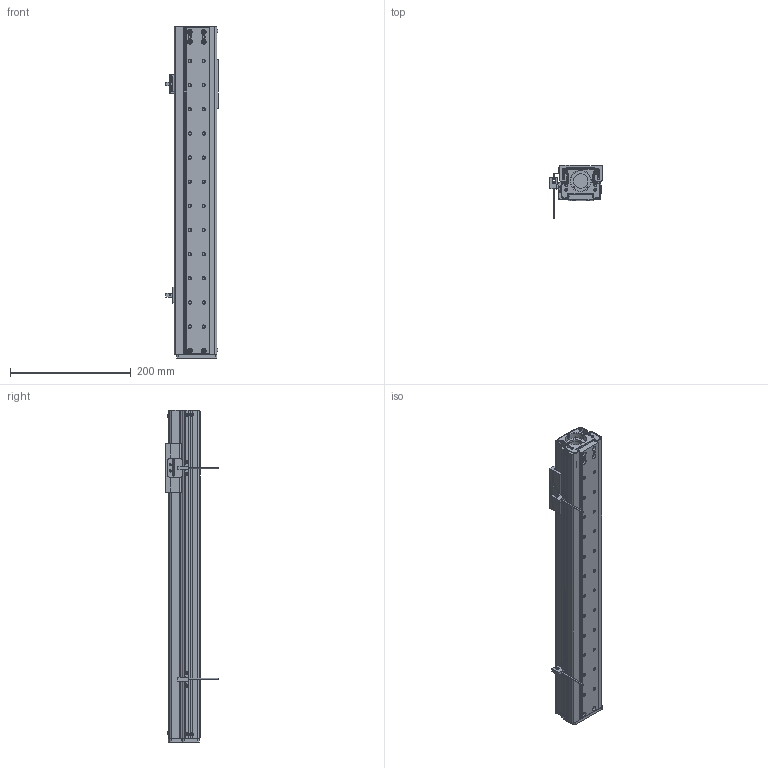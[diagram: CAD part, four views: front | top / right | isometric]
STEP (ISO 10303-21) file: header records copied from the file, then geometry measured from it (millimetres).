
FILE_DESCRIPTION (( 'STEP AP203' ), '1' );
FILE_NAME ('CTHM6-S350.STEP', '2019-12-18T01:46:11', ( '微软用户' ), ( '微软中国' ), 'SwSTEP 2.0', 'SolidWorks 2017', '' );
FILE_SCHEMA (( 'CONFIG_CONTROL_DESIGN' ));
Length unit declared in the file: millimetre
Products named in the file (17): M3-L6半圆头内六角螺丝; LMW15奻窅; 羲壽え; M3-L6囀鞠褒蹟佪; 蟀諉釱(裔啣党蜊); 支持侧轴承座(带磁条); EE-SX672-BR; LMW15AA; 遣喳蝶15x12x8; 滅袉蝶; MG60裔啣; CTHM6-S350; 耜結啣(湍羞); DG60傷裔(祥結傷裔); M4-L10囀鞠褒蹟佪; 侧挡板2(带磁条修改厚度); 固定侧轴承座(自制轴承座)
Assembly tree (29 placements, depth 2):
  CTHM6-S350
    LMW15奻窅
    蟀諉釱(裔啣党蜊)
    LMW15AA
    固定侧轴承座(自制轴承座)
    羲壽え
    支持侧轴承座(带磁条)
    遣喳蝶15x12x8  x2
    MG60裔啣
    耜結啣(湍羞)
    DG60傷裔(祥結傷裔)
    M4-L10囀鞠褒蹟佪  x2
    侧挡板2(带磁条修改厚度)
    M3-L6半圆头内六角螺丝  x8
    M3-L6囀鞠褒蹟佪  x4
    EE-SX672-BR  x2
    滅袉蝶
Bounding box: 86.7 x 87.8 x 550 mm (x, y, z)
Volume: 638609.8 mm3; surface area: 420546.4 mm2
Topology: 33 solids, 33 shells, 1877 faces, 4842 edges, 3000 vertices
Faces by surface type: plane 784, cylinder 673, cone 306, torus 88, bspline 26
Entity records: 51276 total; most frequent: CARTESIAN_POINT 10799, DIRECTION 8270, ORIENTED_EDGE 7900, EDGE_CURVE 3950, AXIS2_PLACEMENT_3D 3072, VERTEX_POINT 2501, VECTOR 2126, LINE 2126
